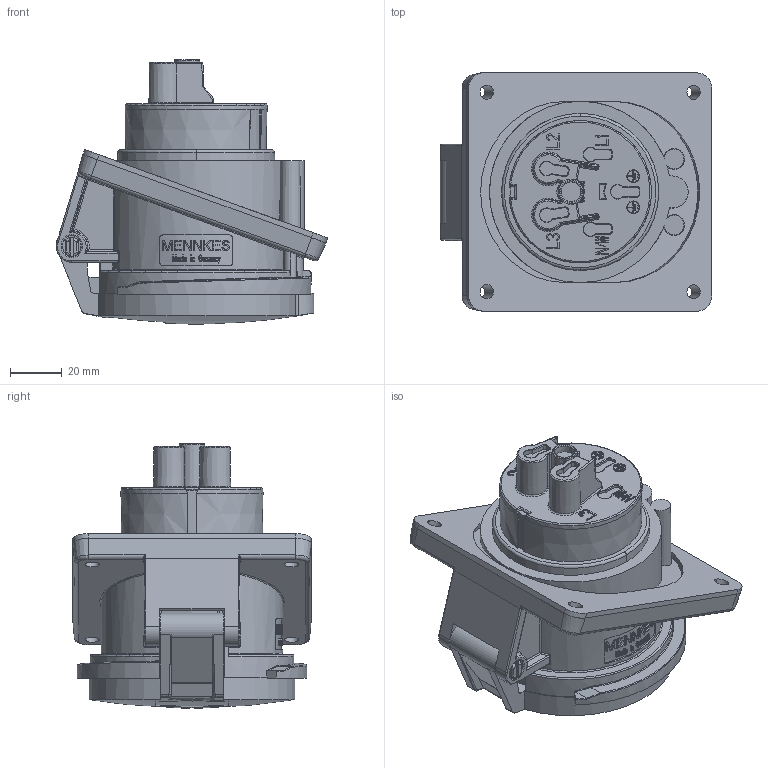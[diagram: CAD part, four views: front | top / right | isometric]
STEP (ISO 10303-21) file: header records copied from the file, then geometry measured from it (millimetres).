
FILE_DESCRIPTION((''),'2;1');
FILE_NAME('1500_SW0001','2017-10-27T',('gisse'),('MENNEKES'),'PRO/ENGINEER BY PARAMETRIC TECHNOLOGY CORPORATION, 2015440','PRO/ENGINEER BY PARAMETRIC TECHNOLOGY CORPORATION, 2015440','');
FILE_SCHEMA(('AUTOMOTIVE_DESIGN { 1 0 10303 214 1 1 1 1 }'));
Products named in the file (1): 1500_SW0001
Bounding box: 104.82 x 92 x 102 mm (x, y, z)
Volume: 385727.3 mm3; surface area: 51777.1 mm2
Topology: 1 solids, 1 shells, 1363 faces, 3661 edges, 2358 vertices
Faces by surface type: plane 908, cylinder 247, bspline 83, torus 64, cone 38, sphere 19, extrusion 4
Entity records: 75327 total; most frequent: CARTESIAN_POINT 15858, ORIENTED_EDGE 7318, DIRECTION 5824, PRESENTATION_STYLE_ASSIGNMENT 4982, STYLED_ITEM 3664, CURVE_STYLE 3663, EDGE_CURVE 3659, FILL_AREA_STYLE_COLOUR 2637
